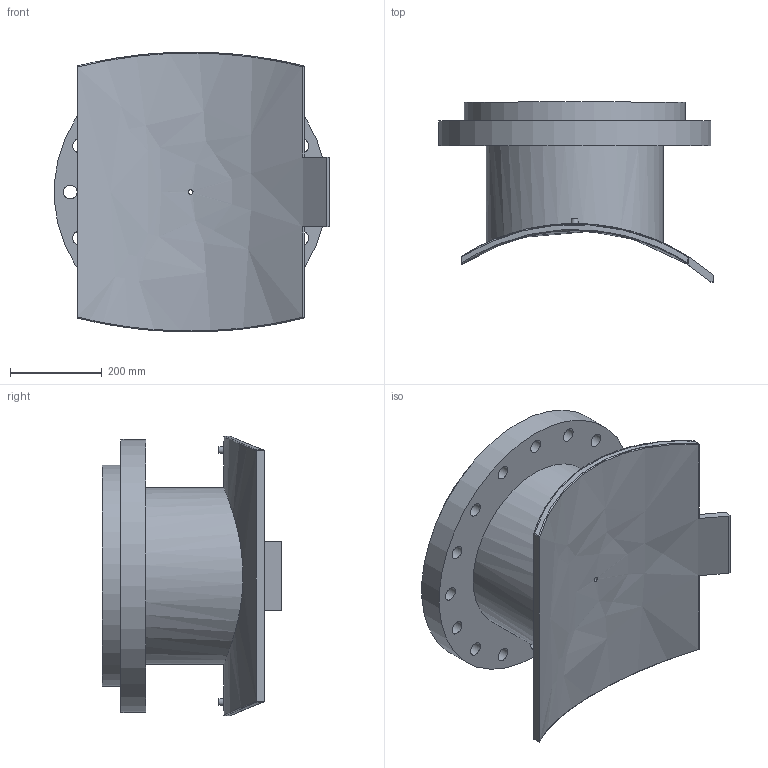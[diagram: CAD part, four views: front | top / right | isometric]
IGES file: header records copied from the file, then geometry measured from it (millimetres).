
Global section: file name: 495903900400T; native system: Autodesk Inventor 2019; preprocessor: unknown; author: KIM; date: 20240403.210759; units: millimetre
Bounding box: 599.23 x 391.84 x 609.44 mm (x, y, z)
Volume: 24863327.7 mm3; surface area: 1751029.5 mm2
Topology: 1 solids, 1 shells, 67 faces, 178 edges, 136 vertices
Faces by surface type: bspline 67
